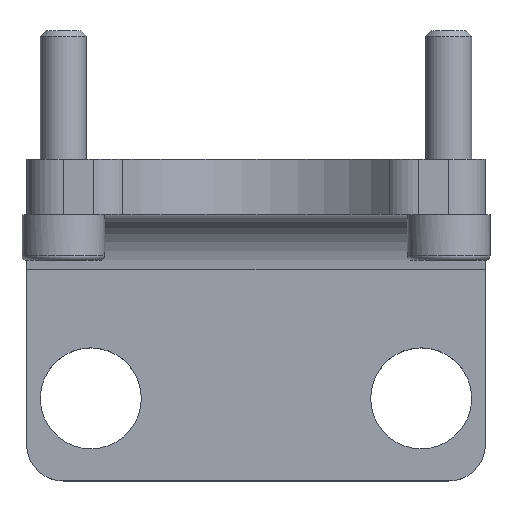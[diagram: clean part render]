
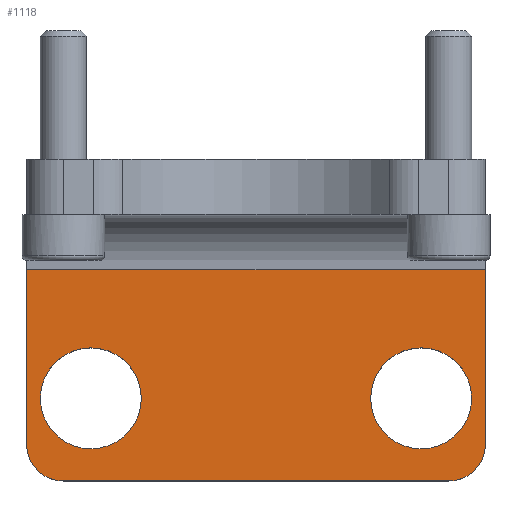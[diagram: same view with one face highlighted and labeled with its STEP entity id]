
A CAD part, top view. The second image highlights one B-rep face of the part: STEP entity #1118.
In plain terms, the highlighted planar face has unit normal (0, 0, 1).
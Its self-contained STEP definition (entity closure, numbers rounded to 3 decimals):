
#113=LINE('',#1893,#187);
#119=LINE('',#1909,#193);
#125=LINE('',#1928,#199);
#126=LINE('',#1930,#200);
#187=VECTOR('',#1535,10.);
#193=VECTOR('',#1551,10.);
#199=VECTOR('',#1581,10.);
#200=VECTOR('',#1584,10.);
#209=FACE_BOUND('',#335,.T.);
#210=FACE_BOUND('',#336,.T.);
#268=FACE_OUTER_BOUND('',#334,.T.);
#334=EDGE_LOOP('',(#961,#962,#963,#964,#965,#966));
#335=EDGE_LOOP('',(#967));
#336=EDGE_LOOP('',(#968));
#384=CIRCLE('',#1220,2.75);
#387=CIRCLE('',#1224,2.75);
#395=CIRCLE('',#1241,2.);
#398=CIRCLE('',#1247,2.);
#479=VERTEX_POINT('',#1828);
#482=VERTEX_POINT('',#1836);
#495=VERTEX_POINT('',#1880);
#496=VERTEX_POINT('',#1881);
#500=VERTEX_POINT('',#1891);
#504=VERTEX_POINT('',#1903);
#505=VERTEX_POINT('',#1907);
#506=VERTEX_POINT('',#1924);
#610=EDGE_CURVE('',#479,#479,#384,.T.);
#614=EDGE_CURVE('',#482,#482,#387,.T.);
#635=EDGE_CURVE('',#495,#496,#395,.T.);
#641=EDGE_CURVE('',#500,#495,#113,.T.);
#646=EDGE_CURVE('',#504,#500,#398,.T.);
#649=EDGE_CURVE('',#505,#504,#119,.T.);
#659=EDGE_CURVE('',#505,#506,#125,.T.);
#660=EDGE_CURVE('',#496,#506,#126,.T.);
#961=ORIENTED_EDGE('',*,*,#635,.F.);
#962=ORIENTED_EDGE('',*,*,#641,.F.);
#963=ORIENTED_EDGE('',*,*,#646,.F.);
#964=ORIENTED_EDGE('',*,*,#649,.F.);
#965=ORIENTED_EDGE('',*,*,#659,.T.);
#966=ORIENTED_EDGE('',*,*,#660,.F.);
#967=ORIENTED_EDGE('',*,*,#610,.T.);
#968=ORIENTED_EDGE('',*,*,#614,.T.);
#1001=PLANE('',#1262);
#1118=ADVANCED_FACE('',(#268,#209,#210),#1001,.T.);
#1220=AXIS2_PLACEMENT_3D('',#1830,#1469,#1470);
#1224=AXIS2_PLACEMENT_3D('',#1838,#1478,#1479);
#1241=AXIS2_PLACEMENT_3D('',#1882,#1525,#1526);
#1247=AXIS2_PLACEMENT_3D('',#1904,#1545,#1546);
#1262=AXIS2_PLACEMENT_3D('',#1931,#1585,#1586);
#1469=DIRECTION('center_axis',(0.,0.,
-1.));
#1470=DIRECTION('ref_axis',(1.,0.,0.));
#1478=DIRECTION('center_axis',(0.,0.,
-1.));
#1479=DIRECTION('ref_axis',(1.,0.,0.));
#1525=DIRECTION('center_axis',(0.,0.,
-1.));
#1526=DIRECTION('ref_axis',(-0.707,-0.707,0.));
#1535=DIRECTION('',(-1.,0.,0.));
#1545=DIRECTION('center_axis',(0.,0.,
-1.));
#1546=DIRECTION('ref_axis',(0.707,-0.707,0.));
#1551=DIRECTION('',(0.,-1.,0.));
#1581=DIRECTION('',(-1.,0.,0.));
#1584=DIRECTION('',(0.,1.,0.));
#1585=DIRECTION('center_axis',(0.,0.,
1.));
#1586=DIRECTION('ref_axis',(-1.,0.,0.));
#1828=CARTESIAN_POINT('',(6.25,4.5,3.));
#1830=CARTESIAN_POINT('Origin',(9.,4.5,3.));
#1836=CARTESIAN_POINT('',(-11.75,4.5,3.));
#1838=CARTESIAN_POINT('Origin',(-9.,4.5,3.));
#1880=CARTESIAN_POINT('',(-10.5,0.,3.));
#1881=CARTESIAN_POINT('',(-12.5,2.,3.));
#1882=CARTESIAN_POINT('Origin',(-10.5,2.,3.));
#1891=CARTESIAN_POINT('',(10.5,0.,3.));
#1893=CARTESIAN_POINT('',(-12.5,0.,3.));
#1903=CARTESIAN_POINT('',(12.5,2.,3.));
#1904=CARTESIAN_POINT('Origin',(10.5,2.,3.));
#1907=CARTESIAN_POINT('',(12.5,11.5,3.));
#1909=CARTESIAN_POINT('',(12.5,0.,3.));
#1924=CARTESIAN_POINT('',(-12.5,11.5,3.));
#1928=CARTESIAN_POINT('',(-6.25,11.5,3.));
#1930=CARTESIAN_POINT('',(-12.5,17.5,3.));
#1931=CARTESIAN_POINT('Origin',(0.,8.75,3.));
